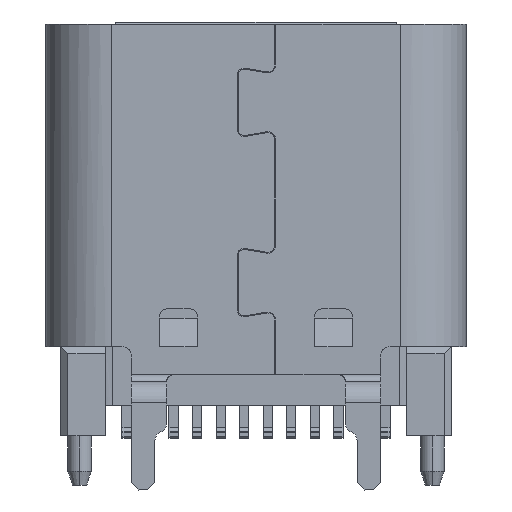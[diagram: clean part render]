
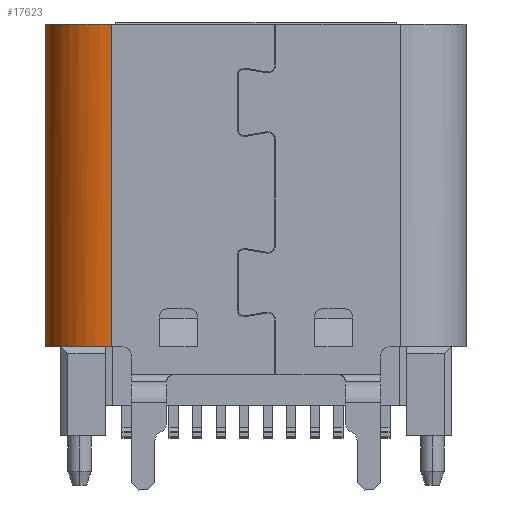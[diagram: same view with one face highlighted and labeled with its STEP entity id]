
A CAD part, front view. The second image highlights one B-rep face of the part: STEP entity #17623.
In plain terms, the highlighted cylindrical face has radius 1.4 mm (diameter 2.8 mm), a partial arc.
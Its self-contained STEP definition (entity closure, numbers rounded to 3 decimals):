
#494=CARTESIAN_POINT('',(-4.211,-0.748,
21.493));
#495=DIRECTION('',(0.,0.,-1.));
#496=DIRECTION('',(0.,-1.,0.));
#497=AXIS2_PLACEMENT_3D('',#494,#495,#496);
#1009=CARTESIAN_POINT('',(-4.211,-0.748,
14.643));
#1010=DIRECTION('',(0.,0.,1.));
#1011=DIRECTION('',(-1.,0.,0.));
#1012=AXIS2_PLACEMENT_3D('',#1009,#1010,#1011);
#1097=CARTESIAN_POINT('',(-4.211,-0.748,
14.643));
#1098=DIRECTION('',(0.,0.,1.));
#1099=DIRECTION('',(-0.093,-0.996,0.));
#1100=AXIS2_PLACEMENT_3D('',#1097,#1098,#1099);
#1115=DIRECTION('',(0.,0.,1.));
#1116=VECTOR('',#1115,6.85);
#1117=CARTESIAN_POINT('',(-5.611,-0.748,
14.643));
#1118=LINE('',#1117,#1116);
#1119=DIRECTION('',(0.,0.,-1.));
#1120=VECTOR('',#1119,6.85);
#1121=CARTESIAN_POINT('',(-4.211,-2.148,
21.493));
#1122=LINE('',#1121,#1120);
#1123=CARTESIAN_POINT('',(-4.211,-0.748,
14.643));
#1124=DIRECTION('',(0.,0.,1.));
#1125=DIRECTION('',(-0.771,-0.636,0.));
#1126=AXIS2_PLACEMENT_3D('',#1123,#1124,#1125);
#12827=CARTESIAN_POINT('',(-4.341,-2.142,
14.643));
#12829=VERTEX_POINT('',#12827);
#12855=CARTESIAN_POINT('',(-4.211,-2.148,
14.643));
#12856=VERTEX_POINT('',#12855);
#12863=CARTESIAN_POINT('',(-5.291,-1.639,
14.643));
#12864=VERTEX_POINT('',#12863);
#12865=CARTESIAN_POINT('',(-5.611,-0.748,
14.643));
#12866=VERTEX_POINT('',#12865);
#12867=CARTESIAN_POINT('',(-5.611,-0.748,
21.493));
#12868=VERTEX_POINT('',#12867);
#12869=CARTESIAN_POINT('',(-4.211,-2.148,
21.493));
#12870=VERTEX_POINT('',#12869);
#17608=CARTESIAN_POINT('',(-4.211,-0.748,
14.497));
#17609=DIRECTION('',(0.,0.,1.));
#17610=DIRECTION('',(1.,0.,0.));
#17611=AXIS2_PLACEMENT_3D('',#17608,#17609,#17610);
#17612=CYLINDRICAL_SURFACE('',#17611,1.4);
#17614=ORIENTED_EDGE('',*,*,#17613,.F.);
#17615=ORIENTED_EDGE('',*,*,#17475,.F.);
#17617=ORIENTED_EDGE('',*,*,#17616,.T.);
#17618=ORIENTED_EDGE('',*,*,#16845,.F.);
#17619=ORIENTED_EDGE('',*,*,#17207,.T.);
#17620=ORIENTED_EDGE('',*,*,#17598,.F.);
#17621=EDGE_LOOP('',(#17614,#17615,#17617,#17618,#17619,#17620));
#17622=FACE_OUTER_BOUND('',#17621,.F.);
#17623=ADVANCED_FACE('',(#17622),#17612,.T.);
#498=CIRCLE('',#497,1.4);
#1013=CIRCLE('',#1012,1.4);
#1101=CIRCLE('',#1100,1.4);
#1127=CIRCLE('',#1126,1.4);
#16845=EDGE_CURVE('',#12870,#12868,#498,.T.);
#17207=EDGE_CURVE('',#12870,#12856,#1122,.T.);
#17475=EDGE_CURVE('',#12866,#12864,#1013,.T.);
#17598=EDGE_CURVE('',#12829,#12856,#1101,.T.);
#17613=EDGE_CURVE('',#12864,#12829,#1127,.T.);
#17616=EDGE_CURVE('',#12866,#12868,#1118,.T.);
